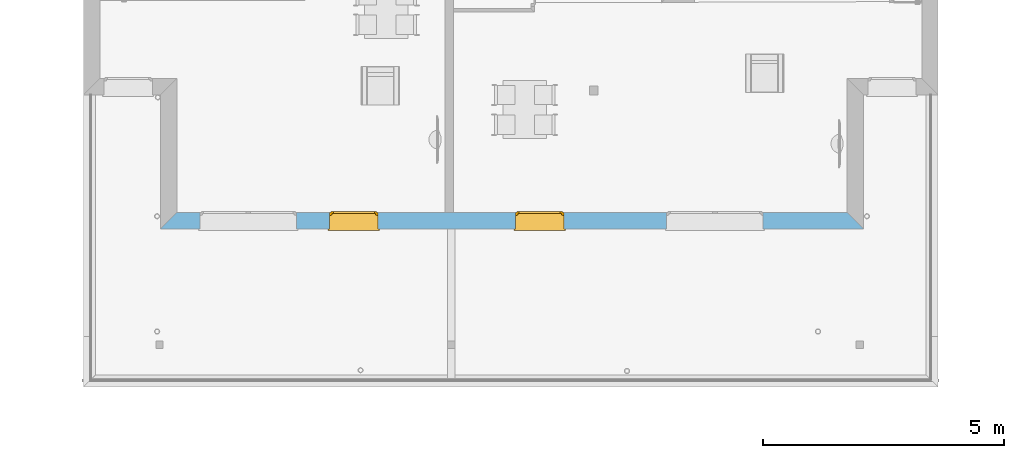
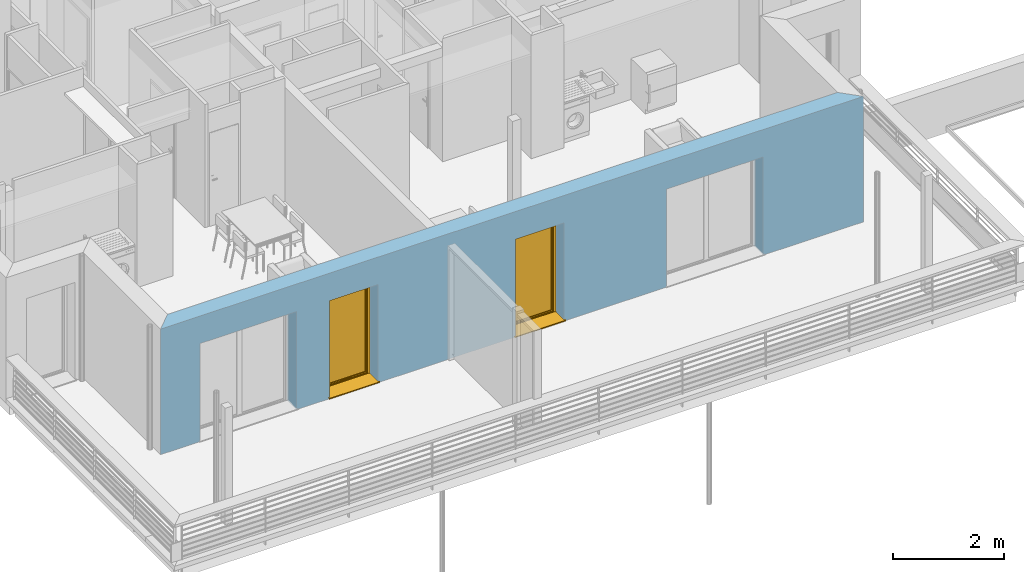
# One storey, part 23 of 171: 2 windows, 4 openings, plus 1 element that does not belong to this part.
"""IFC2X3 building model written with IfcOpenShell, lengths in millimetres."""

from ifc_helpers import new_model, entity, si_unit, converted_unit, derived_unit, money_unit, direction, frame, origin_with_axes, place, context, subcontext, project, spatial, polyline, outline, extrude, open_shell, faceted_brep, surface_model, source, transform, mapped, material, layer, layer_set, layer_usage, type_object, element, fill, save


model = new_model("IFC2X3")

# Units and contexts
model_context = context("Model", 3, precision=0.01, world=origin_with_axes(), true_north=direction((0.0, 1.0)))
body_context = subcontext(model_context, "Body", "Model", "MODEL_VIEW")
ifc_project = project(units=[si_unit("LENGTHUNIT", "METRE", prefix="MILLI"), si_unit("AREAUNIT", "SQUARE_METRE"), si_unit("VOLUMEUNIT", "CUBIC_METRE"), converted_unit("PLANEANGLEUNIT", "DEGREE", entity("IfcPlaneAngleMeasure", 0.0174532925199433), si_unit("PLANEANGLEUNIT", "RADIAN"), dimensions=[0, 0, 0, 0, 0, 0, 0]), money_unit("USD"), converted_unit("TIMEUNIT", "Year", entity("IfcTimeMeasure", 31557600.0), si_unit("TIMEUNIT", "SECOND"), dimensions=[0, 0, 1, 0, 0, 0, 0]), si_unit("MASSUNIT", "GRAM", prefix="KILO"), si_unit("THERMODYNAMICTEMPERATUREUNIT", "DEGREE_CELSIUS"), si_unit("LUMINOUSINTENSITYUNIT", "LUMEN"), si_unit("ENERGYUNIT", "JOULE", prefix="MEGA"), derived_unit("THERMALCONDUCTANCEUNIT", [(si_unit("POWERUNIT", "WATT"), 1), (si_unit("LENGTHUNIT", "METRE"), -1), (si_unit("THERMODYNAMICTEMPERATUREUNIT", "KELVIN"), -1)]), derived_unit("SPECIFICHEATCAPACITYUNIT", [(si_unit("ENERGYUNIT", "JOULE"), 1), (si_unit("MASSUNIT", "GRAM", prefix="KILO"), -1), (si_unit("THERMODYNAMICTEMPERATUREUNIT", "KELVIN"), -1)]), derived_unit("MASSDENSITYUNIT", [(si_unit("MASSUNIT", "GRAM", prefix="KILO"), 1), (si_unit("VOLUMEUNIT", "CUBIC_METRE"), -1)])], contexts=[model_context])

# Site, building, storey
site_placement = place(None, origin_with_axes())
site = spatial("IfcSite", under=ifc_project, at=site_placement, Name="Site", CompositionType="ELEMENT")
building_placement = place(site_placement, origin_with_axes())
building = spatial("IfcBuilding", under=site, at=building_placement, Name="Bâtiment", CompositionType="ELEMENT")
storey_placement = place(building_placement, frame((0.0, 0.0, 3000.0), z_axis=(0.0, 0.0, 1.0), x_axis=(1.0, 0.0, 0.0)))
storey = spatial("IfcBuildingStorey", under=building, at=storey_placement, Name="rdc", CompositionType="ELEMENT", Elevation=3000.0)

# Wall, openings, windows
ifc_material_1 = material(Name="Parpaing 312445824")
ifc_layer_1 = layer(ifc_material_1, 180.0, ventilated="UNKNOWN")
ifc_material_2 = material(Name="Isolant styromousse 301821074")
ifc_layer_2 = layer(ifc_material_2, 160.0, ventilated="UNKNOWN")
ifc_layer_set = layer_set([ifc_layer_1, ifc_layer_2], Name="isol int 18+16 0018356637")
ifc_layer_usage = layer_usage(ifc_layer_set, "AXIS2", "POSITIVE", 0.0)
wall_type = type_object("IfcWallType", Name="isol int 18+16 0018356637 340", PredefinedType="NOTDEFINED")
wall_placement = place(storey_placement, frame((2218234.233338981, -657818.3230769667, 0.0), z_axis=(0.0, 0.0, 1.0), x_axis=(1.0, 0.0, 0.0)))
wall = element("IfcWallStandardCase", 1, at=wall_placement, inside=storey, type_object=wall_type, material=ifc_layer_usage, Name="Mur-142", context=body_context, shape_type="SweptSolid", body=[
    extrude(outline(polyline([(-1.13686837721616e-10, 0.0), (14572.4247596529, 0.0), (14232.42475965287, 340.0000000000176), (339.9999999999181, 340.0000000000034), (-1.13686837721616e-10, 0.0)])), origin_with_axes(), (0.0, 0.0, 1.0), 2750.0),
])
opening_1_placement = place(wall_placement, frame((11494.55984898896, 0.0, 0.0), z_axis=(0.0, 0.0, 1.0), x_axis=(1.0, 0.0, 0.0)))
element("IfcOpeningElement", 2, at=opening_1_placement, cuts=wall, Name="Fen-207", context=body_context, shape_type="Brep", body=[
    faceted_brep([(-1000.0, 341.0000000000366, 2150.0), (1000.0, 341.0000000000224, 2150.0), (1000.0, 341.0000000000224, 0.0), (-1000.0, 341.0000000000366, 0.0), (-1000.0, 529.9999999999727, 2150.0), (1000.0, 529.9999999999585, 2150.0), (1000.0, 289.9999999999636, 2150.0), (1000.0, 289.9999999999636, 0.0), (1000.0, -1.000000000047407, 0.0), (-1000.0, -1.000000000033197, 0.0), (-1000.0, 289.9999999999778, 0.0), (-1000.0, 289.9999999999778, 2150.0), (-1000.0, 279.9999999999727, 2150.0), (-1000.0, 279.9999999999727, 2400.0), (-1000.0, 529.9999999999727, 2400.0), (1000.0, 529.9999999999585, 2400.0), (1000.0, 279.9999999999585, 2400.0), (1000.0, 279.9999999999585, 2150.0), (1000.0, -1.000000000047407, 2150.0), (-1000.0, -1.000000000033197, 2150.0)], [[[0, 1, 2, 3]], [[1, 0, 4, 5]], [[1, 6, 7, 2]], [[7, 8, 9, 10, 3, 2]], [[11, 0, 3, 10]], [[0, 11, 12, 13, 14, 4]], [[15, 5, 4, 14]], [[6, 1, 5, 15, 16, 17]], [[6, 17, 18, 8, 7]], [[19, 9, 8, 18]], [[12, 11, 10, 9, 19]], [[12, 17, 16, 13]], [[16, 15, 14, 13]], [[17, 12, 19, 18]]]),
])
opening_2_placement = place(wall_placement, frame((1819.125619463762, 0.0, 0.0), z_axis=(0.0, 0.0, 1.0), x_axis=(1.0, 0.0, 0.0)))
element("IfcOpeningElement", 3, at=opening_2_placement, cuts=wall, Name="Fen-207", context=body_context, shape_type="Brep", body=[
    faceted_brep([(-1000.0, 341.000000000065, 2150.0), (1000.0, 341.000000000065, 2150.0), (1000.0, 341.000000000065, 0.0), (-1000.0, 341.000000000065, 0.0), (-1000.0, 530.0000000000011, 2150.0), (1000.0, 530.0000000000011, 2150.0), (1000.0, 290.0000000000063, 2150.0), (1000.0, 290.0000000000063, 0.0), (1000.0, -1.000000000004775, 0.0), (-1000.0, -1.000000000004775, 0.0), (-1000.0, 290.0000000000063, 0.0), (-1000.0, 290.0000000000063, 2150.0), (-1000.0, 280.0000000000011, 2150.0), (-1000.0, 280.0000000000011, 2400.0), (-1000.0, 530.0000000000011, 2400.0), (1000.0, 530.0000000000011, 2400.0), (1000.0, 280.0000000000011, 2400.0), (1000.0, 280.0000000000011, 2150.0), (1000.0, -1.000000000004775, 2150.0), (-1000.0, -1.000000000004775, 2150.0)], [[[0, 1, 2, 3]], [[1, 0, 4, 5]], [[1, 6, 7, 2]], [[7, 8, 9, 10, 3, 2]], [[11, 0, 3, 10]], [[0, 11, 12, 13, 14, 4]], [[4, 14, 15, 5]], [[6, 1, 5, 15, 16, 17]], [[6, 17, 18, 8, 7]], [[19, 9, 8, 18]], [[12, 11, 10, 9, 19]], [[12, 17, 16, 13]], [[14, 13, 16, 15]], [[17, 12, 19, 18]]]),
])
opening_3_placement = place(wall_placement, frame((4005.859536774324, 0.0, 0.0), z_axis=(0.0, 0.0, 1.0), x_axis=(1.0, 0.0, 0.0)))
opening_3 = element("IfcOpeningElement", 4, at=opening_3_placement, cuts=wall, Name="Fen-208", context=body_context, shape_type="Brep", body=[
    faceted_brep([(-500.0, 341.000000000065, 2150.0), (500.0, 341.0000000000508, 2150.0), (500.0, 341.0000000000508, 0.0), (-500.0, 341.000000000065, 0.0), (-500.0, 530.0000000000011, 2150.0), (500.0, 529.9999999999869, 2150.0), (500.0, 289.999999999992, 2150.0), (500.0, 289.999999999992, 0.0), (500.0, -1.000000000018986, 0.0), (-500.0, -1.000000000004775, 0.0), (-500.0, 290.0000000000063, 0.0), (-500.0, 290.0000000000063, 2150.0), (-500.0, 280.0000000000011, 2150.0), (-500.0, 280.0000000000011, 2400.0), (-500.0, 530.0000000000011, 2400.0), (500.0, 529.9999999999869, 2400.0), (500.0, 279.9999999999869, 2400.0), (500.0, 279.9999999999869, 2150.0), (500.0, -1.000000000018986, 2150.0), (-500.0, -1.000000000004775, 2150.0)], [[[0, 1, 2, 3]], [[1, 0, 4, 5]], [[1, 6, 7, 2]], [[7, 8, 9, 10, 3, 2]], [[11, 0, 3, 10]], [[0, 11, 12, 13, 14, 4]], [[15, 5, 4, 14]], [[6, 1, 5, 15, 16, 17]], [[6, 17, 18, 8, 7]], [[19, 9, 8, 18]], [[12, 11, 10, 9, 19]], [[12, 17, 16, 13]], [[16, 15, 14, 13]], [[17, 12, 19, 18]]]),
])
opening_4_placement = place(wall_placement, frame((7861.100702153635, 0.0, 0.0), z_axis=(0.0, 0.0, 1.0), x_axis=(1.0, 0.0, 0.0)))
opening_4 = element("IfcOpeningElement", 5, at=opening_4_placement, cuts=wall, Name="Fen-208", context=body_context, shape_type="Brep", body=[
    faceted_brep([(-500.0, 341.0000000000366, 2150.0), (500.0, 341.0000000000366, 2150.0), (500.0, 341.0000000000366, 0.0), (-500.0, 341.0000000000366, 0.0), (-500.0, 529.9999999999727, 2150.0), (500.0, 529.9999999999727, 2150.0), (500.0, 289.9999999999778, 2150.0), (500.0, 289.9999999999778, 0.0), (500.0, -1.000000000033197, 0.0), (-500.0, -1.000000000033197, 0.0), (-500.0, 289.9999999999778, 0.0), (-500.0, 289.9999999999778, 2150.0), (-500.0, 279.9999999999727, 2150.0), (-500.0, 279.9999999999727, 2400.0), (-500.0, 529.9999999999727, 2400.0), (500.0, 529.9999999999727, 2400.0), (500.0, 279.9999999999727, 2400.0), (500.0, 279.9999999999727, 2150.0), (500.0, -1.000000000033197, 2150.0), (-500.0, -1.000000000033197, 2150.0)], [[[0, 1, 2, 3]], [[1, 0, 4, 5]], [[1, 6, 7, 2]], [[7, 8, 9, 10, 3, 2]], [[11, 0, 3, 10]], [[0, 11, 12, 13, 14, 4]], [[15, 5, 4, 14]], [[6, 1, 5, 15, 16, 17]], [[6, 17, 18, 8, 7]], [[19, 9, 8, 18]], [[12, 11, 10, 9, 19]], [[12, 17, 16, 13]], [[16, 15, 14, 13]], [[17, 12, 19, 18]]]),
])
window_style = type_object("IfcWindowStyle", Name="Fenêtre 27", ConstructionType="NOTDEFINED", OperationType="SINGLE_PANEL", ParameterTakesPrecedence=False, Sizeable=False)
shared_shape = source(origin_with_axes(), body_context, "Body", "SurfaceModel", [
    surface_model("IfcShellBasedSurfaceModel", [(500.0, -51.00000000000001, 40.00000000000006), (500.0, -51.00000000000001, 50.00000000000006), (-500.0, -51.00000000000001, 50.0), (-500.0, -51.00000000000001, 40.0), (530.0, -369.9999999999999, 28.96551724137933), (530.0, -339.9999999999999, 30.00324289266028), (500.0, -339.9999999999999, 30.00324289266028), (-500.0, -339.9999999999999, 30.00324289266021), (-530.0, -339.9999999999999, 30.00324289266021), (-530.0, -369.9999999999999, 28.96551724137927), (530.0, -369.9999999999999, 8.96551724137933), (-530.0, -369.9999999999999, 8.965517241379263), (530.0, -359.9999999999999, 18.96551724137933), (-530.0, -359.9999999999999, 18.96551724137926)], [open_shell([[[0, 1, 2, 3]], [[4, 5, 6, 0, 3, 7, 8, 9]], [[10, 4, 9, 11]], [[12, 10, 11, 13]]])]),
    faceted_brep([(-500.0, -59.99999999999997, 2400.0), (-497.0, -59.99999999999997, 2400.0), (-497.0, 190.0, 2400.0), (-500.0, 190.0, 2400.0), (-500.0, -59.99999999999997, 2150.0), (-497.0, -59.99999999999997, 2150.0), (-497.0, 190.0, 2150.0), (-500.0, 190.0, 2150.0)], [[[0, 1, 2, 3]], [[4, 5, 1, 0]], [[1, 5, 6, 2]], [[3, 2, 6, 7]], [[0, 3, 7, 4]], [[7, 6, 5, 4]]]),
    faceted_brep([(497.0, -59.99999999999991, 2400.0), (500.0, -59.99999999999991, 2400.0), (500.0, 190.0000000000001, 2400.0), (497.0, 190.0000000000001, 2400.0), (497.0, -59.99999999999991, 2150.0), (500.0, -59.99999999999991, 2150.0), (500.0, 190.0000000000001, 2150.0), (497.0, 190.0000000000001, 2150.0)], [[[0, 1, 2, 3]], [[4, 5, 1, 0]], [[1, 5, 6, 2]], [[3, 2, 6, 7]], [[0, 3, 7, 4]], [[7, 6, 5, 4]]]),
    faceted_brep([(-497.0, -60.0, 2150.0), (497.0, -59.99999999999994, 2150.0), (497.0, -59.99999999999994, 2400.0), (-497.0, -60.0, 2400.0), (-497.0, -56.99999999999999, 2150.0), (497.0, -56.99999999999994, 2150.0), (497.0, -56.99999999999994, 2397.0), (497.0, 187.0000000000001, 2397.0), (497.0, 187.0000000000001, 2153.0), (497.0, -37.99999999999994, 2153.0), (497.0, -37.99999999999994, 2150.0), (497.0, 190.0000000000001, 2150.0), (497.0, 190.0000000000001, 2400.0), (-497.0, 190.0, 2400.0), (-497.0, 190.0, 2150.0), (-497.0, -37.99999999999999, 2150.0), (-497.0, -37.99999999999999, 2153.0), (-497.0, 187.0, 2153.0), (-497.0, 187.0, 2397.0), (-497.0, -56.99999999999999, 2397.0)], [[[0, 1, 2, 3]], [[4, 5, 1, 0]], [[1, 5, 6, 7, 8, 9, 10, 11, 12, 2]], [[3, 2, 12, 13]], [[0, 3, 13, 14, 15, 16, 17, 18, 19, 4]], [[19, 6, 5, 4]], [[18, 7, 6, 19]], [[17, 8, 7, 18]], [[16, 9, 8, 17]], [[15, 10, 9, 16]], [[14, 11, 10, 15]], [[13, 12, 11, 14]]]),
    faceted_brep([(-494.0, -40.37442957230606, 2256.419644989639), (-494.0, -41.99999999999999, 2275.0), (-494.0, -40.37442957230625, 2293.580355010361), (-494.0, -35.54711042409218, 2311.596155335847), (-494.0, -27.66471820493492, 2328.5), (-494.0, -16.96675541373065, 2343.77827423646), (-494.0, -3.778274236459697, 2356.96675541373), (-494.0, 11.5, 2367.664718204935), (-494.0, 28.40384466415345, 2375.547110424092), (-494.0, 46.41964498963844, 2380.374429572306), (-494.0, 64.99999999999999, 2382.0), (-494.0, 83.58035501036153, 2380.374429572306), (-494.0, 101.5961553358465, 2375.547110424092), (-494.0, 118.5, 2367.664718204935), (-494.0, 133.7782742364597, 2356.96675541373), (-494.0, 146.9667554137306, 2343.77827423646), (-494.0, 157.6647182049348, 2328.5), (-494.0, 165.5471104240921, 2311.596155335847), (-494.0, 170.3744295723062, 2293.580355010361), (-494.0, 171.9999999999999, 2275.0), (-494.0, 170.3744295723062, 2256.419644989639), (-494.0, 165.5471104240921, 2238.403844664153), (-494.0, 157.6647182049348, 2221.5), (-494.0, 146.9667554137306, 2206.22172576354), (-494.0, 133.7782742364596, 2193.033244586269), (-494.0, 118.4999999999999, 2182.335281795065), (-494.0, 101.5961553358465, 2174.452889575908), (-494.0, 83.58035501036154, 2169.625570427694), (-494.0, 65.00000000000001, 2168.0), (-494.0, 46.4196449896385, 2169.625570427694), (-494.0, 28.40384466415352, 2174.452889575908), (-494.0, 11.50000000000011, 2182.335281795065), (-494.0, -3.778274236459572, 2193.033244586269), (-494.0, -16.9667554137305, 2206.22172576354), (-494.0, -27.66471820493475, 2221.5), (-494.0, -35.54711042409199, 2238.403844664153), (494.0, -40.374429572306, 2256.419644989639), (494.0, -41.99999999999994, 2275.0), (494.0, -40.37442957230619, 2293.580355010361), (494.0, -35.54711042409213, 2311.596155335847), (494.0, -27.66471820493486, 2328.5), (494.0, -16.96675541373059, 2343.77827423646), (494.0, -3.778274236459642, 2356.96675541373), (494.0, 11.50000000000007, 2367.664718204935), (494.0, 28.40384466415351, 2375.547110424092), (494.0, 46.41964498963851, 2380.374429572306), (494.0, 65.00000000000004, 2382.0), (494.0, 83.58035501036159, 2380.374429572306), (494.0, 101.5961553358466, 2375.547110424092), (494.0, 118.5, 2367.664718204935), (494.0, 133.7782742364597, 2356.96675541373), (494.0, 146.9667554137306, 2343.77827423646), (494.0, 157.6647182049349, 2328.5), (494.0, 165.5471104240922, 2311.596155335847), (494.0, 170.3744295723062, 2293.580355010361), (494.0, 172.0, 2275.0), (494.0, 170.3744295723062, 2256.419644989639), (494.0, 165.5471104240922, 2238.403844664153), (494.0, 157.6647182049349, 2221.5), (494.0, 146.9667554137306, 2206.22172576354), (494.0, 133.7782742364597, 2193.033244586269), (494.0, 118.5, 2182.335281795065), (494.0, 101.5961553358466, 2174.452889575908), (494.0, 83.5803550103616, 2169.625570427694), (494.0, 65.00000000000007, 2168.0), (494.0, 46.41964498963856, 2169.625570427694), (494.0, 28.40384466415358, 2174.452889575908), (494.0, 11.50000000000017, 2182.335281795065), (494.0, -3.778274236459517, 2193.033244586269), (494.0, -16.96675541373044, 2206.22172576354), (494.0, -27.6647182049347, 2221.5), (494.0, -35.54711042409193, 2238.403844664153)], [[[0, 1, 2, 3, 4, 5, 6, 7, 8, 9, 10, 11, 12, 13, 14, 15, 16, 17, 18, 19, 20, 21, 22, 23, 24, 25, 26, 27, 28, 29, 30, 31, 32, 33, 34, 35]], [[0, 36, 37, 1]], [[1, 37, 38, 2]], [[2, 38, 39, 3]], [[3, 39, 40, 4]], [[4, 40, 41, 5]], [[5, 41, 42, 6]], [[6, 42, 43, 7]], [[7, 43, 44, 8]], [[8, 44, 45, 9]], [[9, 45, 46, 10]], [[10, 46, 47, 11]], [[11, 47, 48, 12]], [[12, 48, 49, 13]], [[13, 49, 50, 14]], [[14, 50, 51, 15]], [[15, 51, 52, 16]], [[16, 52, 53, 17]], [[17, 53, 54, 18]], [[18, 54, 55, 19]], [[19, 55, 56, 20]], [[20, 56, 57, 21]], [[21, 57, 58, 22]], [[22, 58, 59, 23]], [[23, 59, 60, 24]], [[24, 60, 61, 25]], [[25, 61, 62, 26]], [[26, 62, 63, 27]], [[27, 63, 64, 28]], [[28, 64, 65, 29]], [[29, 65, 66, 30]], [[30, 66, 67, 31]], [[31, 67, 68, 32]], [[32, 68, 69, 33]], [[33, 69, 70, 34]], [[34, 70, 71, 35]], [[35, 71, 36, 0]], [[36, 71, 70, 69, 68, 67, 66, 65, 64, 63, 62, 61, 60, 59, 58, 57, 56, 55, 54, 53, 52, 51, 50, 49, 48, 47, 46, 45, 44, 43, 42, 41, 40, 39, 38, 37]]]),
    faceted_brep([(500.0, -34.99999999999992, 30.0), (500.0, -34.99999999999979, 2150.0), (500.0, -59.99999999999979, 2150.0), (500.0, -59.99999999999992, 30.0), (475.0, -34.99999999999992, 30.0), (475.0, -34.99999999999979, 2150.0), (475.0, -37.99999999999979, 2150.0), (497.0, -37.99999999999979, 2150.0), (497.0, -56.99999999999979, 2150.0), (475.0, -56.99999999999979, 2150.0), (475.0, -59.99999999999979, 2150.0), (475.0, -59.99999999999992, 30.0), (475.0, -56.99999999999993, 30.0), (497.0, -56.99999999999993, 30.0), (497.0, -37.99999999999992, 30.0), (475.0, -37.99999999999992, 30.0)], [[[0, 1, 2, 3]], [[4, 5, 1, 0]], [[1, 5, 6, 7, 8, 9, 10, 2]], [[3, 2, 10, 11]], [[0, 3, 11, 12, 13, 14, 15, 4]], [[15, 6, 5, 4]], [[14, 7, 6, 15]], [[13, 8, 7, 14]], [[12, 9, 8, 13]], [[11, 10, 9, 12]]]),
    faceted_brep([(-500.0, -34.99999999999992, 30.0), (-500.0, -59.99999999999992, 30.0), (-500.0, -59.99999999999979, 2150.0), (-500.0, -34.99999999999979, 2150.0), (-475.0, -34.99999999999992, 30.0), (-475.0, -37.99999999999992, 30.0), (-497.0, -37.99999999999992, 30.0), (-497.0, -56.99999999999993, 30.0), (-475.0, -56.99999999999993, 30.0), (-475.0, -59.99999999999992, 30.0), (-475.0, -59.99999999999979, 2150.0), (-475.0, -56.99999999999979, 2150.0), (-497.0, -56.99999999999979, 2150.0), (-497.0, -37.99999999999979, 2150.0), (-475.0, -37.99999999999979, 2150.0), (-475.0, -34.99999999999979, 2150.0)], [[[0, 1, 2, 3]], [[0, 4, 5, 6, 7, 8, 9, 1]], [[1, 9, 10, 2]], [[3, 2, 10, 11, 12, 13, 14, 15]], [[4, 0, 3, 15]], [[5, 4, 15, 14]], [[6, 5, 14, 13]], [[7, 6, 13, 12]], [[8, 7, 12, 11]], [[9, 8, 11, 10]]]),
    faceted_brep([(497.0, -46.66666666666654, 2275.0), (497.0, -46.66666666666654, 2266.666666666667), (-497.0, -46.6666666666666, 2266.666666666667), (-497.0, -46.6666666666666, 2275.0), (497.0, -51.66666666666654, 2275.0), (497.0, -51.66666666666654, 2266.666666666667), (497.0, -49.99999999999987, 2250.0), (497.0, -44.99999999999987, 2250.0), (-497.0, -44.99999999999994, 2250.0), (-497.0, -49.99999999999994, 2250.0), (-497.0, -51.6666666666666, 2266.666666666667), (-497.0, -51.6666666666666, 2275.0)], [[[0, 1, 2, 3]], [[4, 5, 6, 7, 1, 0]], [[2, 1, 7, 8]], [[3, 2, 8, 9, 10, 11]], [[3, 11, 4, 0]], [[10, 5, 4, 11]], [[9, 6, 5, 10]], [[8, 7, 6, 9]]]),
    faceted_brep([(-497.0, -44.99999999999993, 2250.0), (497.0, -44.99999999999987, 2250.0), (497.0, -46.66666666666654, 2233.333333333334), (-497.0, -46.6666666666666, 2233.333333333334), (-497.0, -49.99999999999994, 2250.0), (497.0, -49.99999999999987, 2250.0), (497.0, -51.66666666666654, 2233.333333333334), (497.0, -51.66666666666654, 2216.666666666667), (497.0, -49.99999999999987, 2200.0), (497.0, -44.99999999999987, 2200.0), (497.0, -46.66666666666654, 2216.666666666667), (-497.0, -46.6666666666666, 2216.666666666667), (-497.0, -44.99999999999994, 2200.0), (-497.0, -49.99999999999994, 2200.0), (-497.0, -51.6666666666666, 2216.666666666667), (-497.0, -51.6666666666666, 2233.333333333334)], [[[0, 1, 2, 3]], [[4, 5, 1, 0]], [[1, 5, 6, 7, 8, 9, 10, 2]], [[3, 2, 10, 11]], [[0, 3, 11, 12, 13, 14, 15, 4]], [[15, 6, 5, 4]], [[14, 7, 6, 15]], [[13, 8, 7, 14]], [[12, 9, 8, 13]], [[11, 10, 9, 12]]]),
    faceted_brep([(-497.0, -44.99999999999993, 2200.0), (497.0, -44.99999999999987, 2200.0), (497.0, -46.66666666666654, 2183.333333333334), (-497.0, -46.6666666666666, 2183.333333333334), (-497.0, -49.99999999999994, 2200.0), (497.0, -49.99999999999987, 2200.0), (497.0, -51.66666666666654, 2183.333333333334), (497.0, -51.66666666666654, 2166.666666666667), (497.0, -49.99999999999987, 2150.000000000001), (497.0, -44.99999999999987, 2150.000000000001), (497.0, -46.66666666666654, 2166.666666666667), (-497.0, -46.6666666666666, 2166.666666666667), (-497.0, -44.99999999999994, 2150.000000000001), (-497.0, -49.99999999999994, 2150.000000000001), (-497.0, -51.6666666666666, 2166.666666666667), (-497.0, -51.6666666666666, 2183.333333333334)], [[[0, 1, 2, 3]], [[4, 5, 1, 0]], [[1, 5, 6, 7, 8, 9, 10, 2]], [[3, 2, 10, 11]], [[0, 3, 11, 12, 13, 14, 15, 4]], [[15, 6, 5, 4]], [[14, 7, 6, 15]], [[13, 8, 7, 14]], [[12, 9, 8, 13]], [[11, 10, 9, 12]]]),
    faceted_brep([(-475.0000000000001, 0.0, 2100.0), (-500.0, 0.0, 2100.0), (-500.0, -50.00000000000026, 2100.0), (-450.0, -50.00000000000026, 2100.0), (-450.0, -25.00000000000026, 2100.0), (-475.0000000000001, -25.00000000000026, 2100.0), (-475.0000000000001, 0.0, 50.00000000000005), (-500.0, 0.0, 50.00000000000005), (-500.0, -50.00000000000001, 50.00000000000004), (-450.0, -50.00000000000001, 50.00000000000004), (-450.0, -25.00000000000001, 50.00000000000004), (-475.0000000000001, -25.00000000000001, 50.00000000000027)], [[[0, 1, 2, 3, 4, 5]], [[6, 7, 1, 0]], [[1, 7, 8, 2]], [[2, 8, 9, 3]], [[4, 3, 9, 10]], [[10, 11, 5, 4]], [[5, 11, 6, 0]], [[11, 10, 9, 8, 7, 6]]]),
    faceted_brep([(450.0, -25.00000000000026, 2100.0), (450.0, -50.00000000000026, 2100.0), (500.0, -50.00000000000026, 2100.0), (500.0, 0.0, 2100.0), (475.0000000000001, 0.0, 2100.0), (475.0000000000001, -25.00000000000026, 2100.0), (450.0, -25.00000000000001, 50.00000000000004), (450.0, -50.00000000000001, 50.00000000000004), (500.0, -50.00000000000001, 50.00000000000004), (500.0, 0.0, 50.00000000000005), (475.0000000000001, 0.0, 50.00000000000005), (475.0000000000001, -25.00000000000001, 50.00000000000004)], [[[0, 1, 2, 3, 4, 5]], [[6, 7, 1, 0]], [[8, 2, 1, 7]], [[9, 3, 2, 8]], [[4, 3, 9, 10]], [[10, 11, 5, 4]], [[5, 11, 6, 0]], [[11, 10, 9, 8, 7, 6]]]),
    faceted_brep([(450.0, -25.00000000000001, 50.00000000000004), (450.0, -50.00000000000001, 50.00000000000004), (500.0, -50.00000000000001, 50.00000000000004), (500.0, 0.0, 50.00000000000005), (475.0000000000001, 0.0, 50.00000000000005), (475.0000000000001, -25.00000000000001, 50.00000000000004), (-450.0, -25.00000000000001, 50.00000000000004), (-450.0, -50.00000000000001, 50.00000000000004), (-500.0, -50.00000000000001, 50.00000000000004), (-500.0, -50.0, 0.0), (500.0, -50.0, 0.0), (500.0, 0.0, 0.0), (-475.0000000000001, 0.0, 24.99999999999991), (475.0000000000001, 0.0, 24.99999999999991), (-500.0, 0.0, 0.0), (-500.0, 0.0, 50.00000000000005), (-475.0000000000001, 0.0, 50.00000000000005), (475.0000000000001, -25.0, 24.99999999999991), (-475.0000000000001, -25.0, 24.99999999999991), (-475.0000000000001, -25.00000000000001, 50.00000000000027)], [[[0, 1, 2, 3, 4, 5]], [[6, 7, 1, 0]], [[8, 9, 10, 2, 1, 7]], [[11, 3, 2, 10]], [[12, 13, 4, 3, 11, 14, 15, 16]], [[13, 17, 5, 4]], [[5, 17, 18, 19, 6, 0]], [[19, 16, 15, 8, 7, 6]], [[15, 14, 9, 8]], [[14, 11, 10, 9]], [[12, 18, 17, 13]], [[19, 18, 12, 16]]]),
    faceted_brep([(-475.0000000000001, 0.0, 2100.0), (-500.0, 0.0, 2100.0), (-500.0, 0.0, 2150.0), (500.0, 0.0, 2150.0), (500.0, 0.0, 2100.0), (475.0000000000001, 0.0, 2100.0), (475.0000000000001, 0.0, 2125.0), (-475.0000000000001, 0.0, 2125.0), (-475.0000000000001, -25.00000000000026, 2100.0), (-450.0, -25.00000000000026, 2100.0), (-450.0, -50.00000000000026, 2100.0), (-500.0, -50.00000000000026, 2100.0), (-500.0, -50.00000000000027, 2150.0), (500.0, -50.00000000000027, 2150.0), (500.0, -50.00000000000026, 2100.0), (475.0000000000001, -25.00000000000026, 2100.0), (450.0, -50.00000000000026, 2100.0), (450.0, -25.00000000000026, 2100.0), (475.0000000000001, -25.00000000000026, 2125.0), (-475.0000000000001, -25.00000000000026, 2125.0)], [[[0, 1, 2, 3, 4, 5, 6, 7]], [[8, 9, 10, 11, 1, 0]], [[2, 1, 11, 12]], [[3, 2, 12, 13]], [[4, 3, 13, 14]], [[15, 5, 4, 14, 16, 17]], [[5, 15, 18, 6]], [[6, 18, 19, 7]], [[7, 19, 8, 0]], [[17, 9, 8, 19, 18, 15]], [[17, 16, 10, 9]], [[14, 13, 12, 11, 10, 16]]]),
    faceted_brep([(-425.0000000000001, -25.00000000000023, 2075.0), (-425.0000000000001, 24.99999999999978, 2075.0), (-475.0000000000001, 24.99999999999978, 2075.0), (-475.0000000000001, -25.00000000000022, 2075.0), (-425.0000000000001, -24.99999999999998, 75.00000000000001), (-425.0000000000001, 25.00000000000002, 75.00000000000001), (-475.0000000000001, 25.00000000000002, 75.00000000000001), (-475.0000000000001, -24.99999999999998, 75.00000000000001)], [[[0, 1, 2, 3]], [[4, 5, 1, 0]], [[1, 5, 6, 2]], [[3, 2, 6, 7]], [[0, 3, 7, 4]], [[7, 6, 5, 4]]]),
    faceted_brep([(425.0000000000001, -25.00000000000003, 75.00000000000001), (425.0000000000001, 24.99999999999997, 75.00000000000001), (475.0000000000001, 24.99999999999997, 75.00000000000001), (475.0000000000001, -25.00000000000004, 75.00000000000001), (425.0000000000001, -25.00000000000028, 2075.0), (425.0000000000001, 24.99999999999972, 2075.0), (475.0000000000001, 24.99999999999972, 2075.0), (475.0000000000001, -25.00000000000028, 2075.0)], [[[0, 1, 2, 3]], [[4, 5, 1, 0]], [[1, 5, 6, 2]], [[3, 2, 6, 7]], [[0, 3, 7, 4]], [[7, 6, 5, 4]]]),
    faceted_brep([(475.0000000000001, -25.00000000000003, 25.0), (475.0000000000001, 24.99999999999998, 25.00000000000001), (475.0000000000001, 24.99999999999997, 75.00000000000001), (475.0000000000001, -25.00000000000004, 75.00000000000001), (-475.0000000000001, -24.99999999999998, 25.0), (-475.0000000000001, 25.00000000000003, 25.00000000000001), (-475.0000000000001, 25.00000000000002, 75.00000000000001), (-425.0000000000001, 25.00000000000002, 75.00000000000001), (425.0000000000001, 24.99999999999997, 75.00000000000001), (425.0000000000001, -25.00000000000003, 75.00000000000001), (-425.0000000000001, -24.99999999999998, 75.00000000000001), (-475.0000000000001, -24.99999999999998, 75.00000000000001)], [[[0, 1, 2, 3]], [[4, 5, 1, 0]], [[1, 5, 6, 7, 8, 2]], [[3, 2, 8, 9]], [[0, 3, 9, 10, 11, 4]], [[11, 6, 5, 4]], [[10, 7, 6, 11]], [[9, 8, 7, 10]]]),
    faceted_brep([(-475.0000000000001, -25.00000000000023, 2125.0), (-475.0000000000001, 24.99999999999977, 2125.0), (-475.0000000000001, 24.99999999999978, 2075.0), (-475.0000000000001, -25.00000000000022, 2075.0), (475.0000000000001, -25.00000000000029, 2125.0), (475.0000000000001, 24.99999999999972, 2125.0), (475.0000000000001, 24.99999999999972, 2075.0), (425.0000000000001, 24.99999999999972, 2075.0), (-425.0000000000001, 24.99999999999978, 2075.0), (-425.0000000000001, -25.00000000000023, 2075.0), (425.0000000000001, -25.00000000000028, 2075.0), (475.0000000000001, -25.00000000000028, 2075.0)], [[[0, 1, 2, 3]], [[4, 5, 1, 0]], [[1, 5, 6, 7, 8, 2]], [[3, 2, 8, 9]], [[0, 3, 9, 10, 11, 4]], [[11, 6, 5, 4]], [[10, 7, 6, 11]], [[9, 8, 7, 10]]]),
    surface_model("IfcShellBasedSurfaceModel", [(-425.0000000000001, -10.00000000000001, 75.00000000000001), (425.0000000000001, -10.00000000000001, 75.00000000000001), (425.0000000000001, -10.00000000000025, 2075.0), (-425.0000000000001, -10.00000000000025, 2075.0)], [open_shell([[[0, 1, 2, 3]]])]),
    surface_model("IfcShellBasedSurfaceModel", [(-425.0000000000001, 9.999999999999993, 75.00000000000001), (-425.0000000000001, 9.99999999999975, 2075.0), (425.0000000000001, 9.99999999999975, 2075.0), (425.0000000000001, 9.999999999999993, 75.00000000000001)], [open_shell([[[0, 1, 2, 3]]])]),
])
window_1_placement = place(opening_3_placement, frame((-500.0000000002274, 0.0, 0.0), z_axis=(0.0, 0.0, 1.0), x_axis=(1.0, 0.0, 0.0)))
window_1 = element("IfcWindow", 6, at=window_1_placement, inside=storey, type_object=window_style, Name="Fen-208", OverallHeight=2150.0, OverallWidth=1000.0, context=body_context, shape_type="MappedRepresentation", body=[
    mapped(shared_shape, transform((500.0, 339.999999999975, 0.0))),
])
fill(opening_3, window_1)
window_2_placement = place(opening_4_placement, frame((-500.0, 0.0, 0.0), z_axis=(0.0, 0.0, 1.0), x_axis=(1.0, 0.0, 0.0)))
window_2 = element("IfcWindow", 7, at=window_2_placement, inside=storey, type_object=window_style, Name="Fen-208", OverallHeight=2150.0, OverallWidth=1000.0, context=body_context, shape_type="MappedRepresentation", body=[
    mapped(shared_shape, transform((500.0, 339.999999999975, 0.0))),
])
fill(opening_4, window_2)

save(model, "model.ifc")
